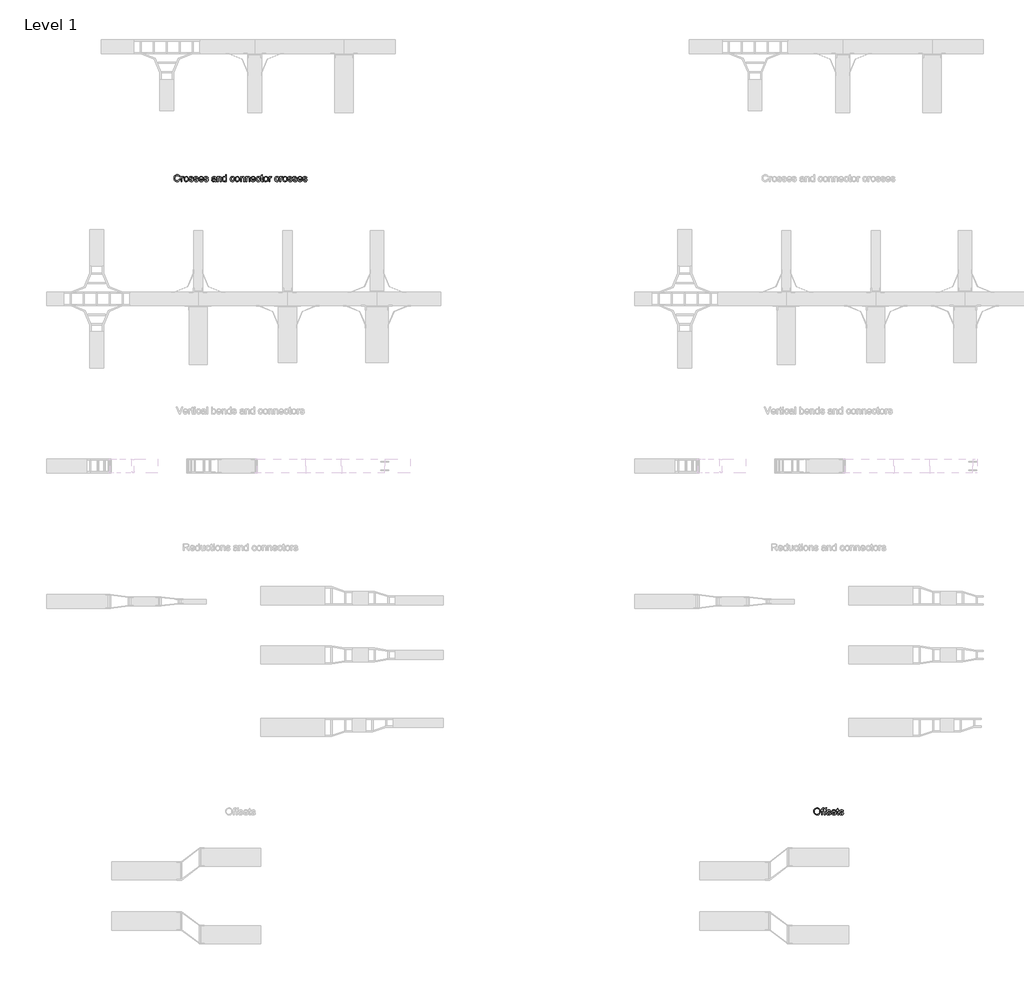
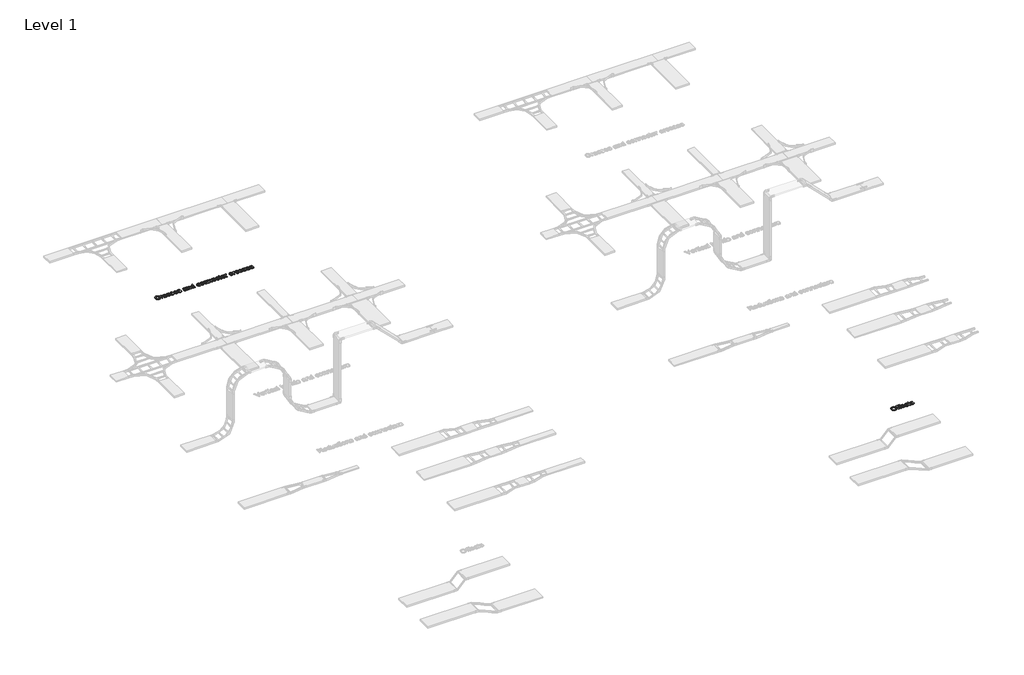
# One storey, part 66 of 106: 2 proxies.
"""IFC4 building model written with IfcOpenShell, lengths in millimetres."""

from ifc_helpers import new_model, si_unit, origin, origin_with_axes, place, context, project, spatial, polyline, outline, extrude, element, save

model = new_model("IFC4")

# Units and contexts
model_context = context("Model", 3, world=origin())
ifc_project = project(units=[si_unit("LENGTHUNIT", "METRE", prefix="MILLI")], contexts=[model_context])

# Site, building, storey
site = spatial("IfcSite", under=ifc_project)
building = spatial("IfcBuilding", under=site)
storey = spatial("IfcBuildingStorey", under=building, Name="Level 1", Elevation=0.0)

# Proxies
placement = place(None, origin())
element("IfcBuildingElementProxy", 1, Name="150mm Arial 2", ObjectType="150mm Arial 2", at=placement, inside=storey, context=model_context, shape_type="SweptSolid", body=[
    extrude(outline(polyline([(41573.187076, 62501.4112533), (41592.0226342, 62496.5552109), (41583.331422, 62474.6064514), (41569.6921971, 62458.5713949), (41551.7763439, 62448.7627412), (41530.2552472, 62445.49319), (41508.4076552, 62447.9671964), (41491.0574206, 62455.3892157), (41477.7584865, 62467.5017304), (41468.0647959, 62484.0472231), (41462.1464943, 62503.4989836), (41460.1737271, 62524.3303016), (41462.4040117, 62546.3020537), (41469.0948655, 62565.2755676), (41479.8968006, 62580.6484365), (41494.460329, 62591.8182536), (41511.7323887, 62598.619472), (41530.6599174, 62600.8865448), (41551.3118929, 62597.9526859), (41568.386216, 62589.1511091), (41581.3494578, 62575.0244405), (41589.6681894, 62556.115306), (41570.8326312, 62551.6271456), (41564.3027258, 62565.3629396), (41555.3815874, 62574.7853172), (41543.9588515, 62580.2345693), (41529.9241534, 62582.0509866), (41513.7465426, 62580.0368327), (41500.4568056, 62573.9943709), (41490.3722404, 62564.5581977), (41483.8101453, 62552.3629096), (41479.0092852, 62524.3670898), (41480.4302295, 62506.9662714), (41484.6930621, 62491.9198978), (41491.9587315, 62479.8027846), (41502.388186, 62471.1897474), (41514.8915754, 62466.043998), (41528.379049, 62464.3287482), (41544.1014058, 62466.6647988), (41557.2026033, 62473.6729508), (41567.0940305, 62485.2796278), (41573.187076, 62501.4112533)])), origin_with_axes(), (0.0, 0.0, 1.0), 15.0),
    extrude(outline(polyline([(41615.5670819, 62447.8476348), (41615.5670819, 62558.5065389), (41632.0481952, 62558.5065389), (41632.0481952, 62542.1357901), (41643.7468427, 62557.2189519), (41655.5190665, 62560.8609837), (41674.4282011, 62555.0484482), (41668.137419, 62538.1626646), (41654.8936671, 62542.0254255), (41644.2434834, 62538.3098174), (41637.4560606, 62528.0091215), (41634.40264, 62506.0097782), (41634.40264, 62447.8476348), (41615.5670819, 62447.8476348)])), origin_with_axes(), (0.0, 0.0, 1.0), 15.0),
    extrude(outline(polyline([(41681.4915354, 62503.1770869), (41685.5658285, 62529.8577286), (41697.7887078, 62548.6105133), (41712.8902637, 62557.7983661), (41730.9716637, 62560.8609837), (41750.7591166, 62557.13158), (41766.5642468, 62545.9433688), (41776.9247235, 62528.179267), (41780.3782157, 62504.7221912), (41778.8515054, 62485.693495), (41774.2713746, 62471.2081415), (41766.7711804, 62460.3602211), (41756.4842801, 62452.2438246), (41744.2659993, 62447.1808487), (41730.9716637, 62445.49319), (41710.9450876, 62449.2087982), (41695.1583515, 62460.3556226), (41684.9082394, 62478.492205), (41681.4915354, 62503.1770869)]), holes=[polyline([(41700.3270935, 62503.2138751), (41702.5067944, 62486.1671431), (41709.0458968, 62474.0224387), (41718.8867402, 62466.7521708), (41730.9716637, 62464.3287482), (41743.001405, 62466.7659664), (41752.8238543, 62474.077621), (41759.3629567, 62486.3832738), (41761.5426575, 62503.8024862), (41759.3491611, 62520.3525775), (41752.768672, 62532.331735), (41742.9324271, 62539.6020029), (41730.9716637, 62542.0254255), (41718.8867402, 62539.6112), (41709.0458968, 62532.3685232), (41702.5067944, 62520.25141), (41700.3270935, 62503.2138751)])]), origin_with_axes(), (0.0, 0.0, 1.0), 15.0),
    extrude(outline(polyline([(41794.5048843, 62480.8098615), (41813.3404425, 62483.1643063), (41816.3110896, 62475.1076906), (41822.0592457, 62469.1847905), (41842.0352381, 62464.3287482), (41861.2386782, 62468.7801203), (41867.4926722, 62479.227969), (41865.9199766, 62484.028829), (41861.20189, 62487.6892549), (41841.8145089, 62493.060332), (41813.4508071, 62502.275776), (41801.0715779, 62513.0363243), (41796.8593291, 62528.2298507), (41800.2438434, 62542.2645488), (41809.4776815, 62552.988309), (41821.4522405, 62558.5617212), (41837.6574423, 62560.8609837), (41860.5764906, 62557.1637696), (41875.1446177, 62547.1573794), (41881.6193408, 62530.2532017), (41862.7837826, 62527.8987569), (41855.7020542, 62538.2914233), (41839.1289703, 62542.0254255), (41821.1027526, 62538.4569702), (41815.6948872, 62530.1428371), (41817.9389674, 62524.6613954), (41824.9655135, 62520.5043288), (41841.1891095, 62516.4944151), (41868.8354414, 62507.628459), (41881.6745231, 62497.5852805), (41886.3282303, 62481.2145317), (41880.8651827, 62463.188314), (41865.1014392, 62450.1101091), (41841.7777207, 62445.49319), (41822.7858127, 62447.7188761), (41808.9258585, 62454.3959343), (41799.6736263, 62465.4507882), (41794.5048843, 62480.8098615)])), origin_with_axes(), (0.0, 0.0, 1.0), 15.0),
    extrude(outline(polyline([(41900.4548989, 62480.8098615), (41919.2904571, 62483.1643063), (41922.2611042, 62475.1076906), (41928.0092604, 62469.1847905), (41947.9852527, 62464.3287482), (41967.1886928, 62468.7801203), (41973.4426868, 62479.227969), (41971.8699912, 62484.028829), (41967.1519046, 62487.6892549), (41947.7645235, 62493.060332), (41919.4008217, 62502.275776), (41907.0215925, 62513.0363243), (41902.8093437, 62528.2298507), (41906.193858, 62542.2645488), (41915.4276961, 62552.988309), (41927.4022551, 62558.5617212), (41943.607457, 62560.8609837), (41966.5265053, 62557.1637696), (41981.0946323, 62547.1573794), (41987.5693554, 62530.2532017), (41968.7337972, 62527.8987569), (41961.6520688, 62538.2914233), (41945.0789849, 62542.0254255), (41927.0527672, 62538.4569702), (41921.6449018, 62530.1428371), (41923.888982, 62524.6613954), (41930.9155281, 62520.5043288), (41947.1391241, 62516.4944151), (41974.785456, 62507.628459), (41987.6245377, 62497.5852805), (41992.2782449, 62481.2145317), (41986.8151973, 62463.188314), (41971.0514538, 62450.1101091), (41947.7277353, 62445.49319), (41928.7358273, 62447.7188761), (41914.8758731, 62454.3959343), (41905.623641, 62465.4507882), (41900.4548989, 62480.8098615)])), origin_with_axes(), (0.0, 0.0, 1.0), 15.0),
    extrude(outline(polyline([(42090.944196, 62480.8098615), (42109.4118722, 62478.4554168), (42102.7578066, 62464.5402803), (42092.1398125, 62454.1384169), (42077.7970132, 62447.6544967), (42059.968532, 62445.49319), (42037.8680212, 62449.2225937), (42020.8626759, 62460.4108049), (42010.0193541, 62478.3312566), (42006.4049135, 62502.2573819), (42010.0561423, 62526.988249), (42021.0098287, 62545.4835163), (42037.7852477, 62557.0166168), (42058.9016742, 62560.8609837), (42079.3605117, 62557.0258139), (42095.7082679, 62545.5203045), (42106.4274295, 62527.0618254), (42110.0004834, 62502.3677465), (42109.8901188, 62497.2909749), (42025.2404717, 62497.2909749), (42028.5008259, 62483.1918975), (42036.0745964, 62472.8268223), (42047.0052902, 62466.4532667), (42060.336414, 62464.3287482), (42078.8040902, 62468.2650855), (42090.944196, 62480.8098615)]), holes=[polyline([(42025.2404717, 62516.1265331), (42091.1649252, 62516.1265331), (42088.6173424, 62526.0777411), (42083.6233443, 62533.1962577), (42072.6420668, 62539.8181336), (42058.8280978, 62542.0254255), (42046.1315705, 62540.2641905), (42035.633138, 62534.9804853), (42028.335279, 62526.7445272), (42025.2404717, 62516.1265331)])]), origin_with_axes(), (0.0, 0.0, 1.0), 15.0),
    extrude(outline(polyline([(42121.7727072, 62480.8098615), (42140.6082654, 62483.1643063), (42143.5789125, 62475.1076906), (42149.3270687, 62469.1847905), (42169.303061, 62464.3287482), (42188.5065011, 62468.7801203), (42194.7604951, 62479.227969), (42193.1877995, 62484.028829), (42188.4697129, 62487.6892549), (42169.0823318, 62493.060332), (42140.71863, 62502.275776), (42128.3394008, 62513.0363243), (42124.127152, 62528.2298507), (42127.5116663, 62542.2645488), (42136.7455044, 62552.988309), (42148.7200634, 62558.5617212), (42164.9252653, 62560.8609837), (42187.8443136, 62557.1637696), (42202.4124406, 62547.1573794), (42208.8871637, 62530.2532017), (42190.0516055, 62527.8987569), (42182.9698771, 62538.2914233), (42166.3967932, 62542.0254255), (42148.3705755, 62538.4569702), (42142.9627101, 62530.1428371), (42145.2067903, 62524.6613954), (42152.2333364, 62520.5043288), (42168.4569324, 62516.4944151), (42196.1032643, 62507.628459), (42208.942346, 62497.5852805), (42213.5960532, 62481.2145317), (42208.1330056, 62463.188314), (42192.3692621, 62450.1101091), (42169.0455436, 62445.49319), (42150.0536356, 62447.7188761), (42136.1936814, 62454.3959343), (42126.9414493, 62465.4507882), (42121.7727072, 62480.8098615)])), origin_with_axes(), (0.0, 0.0, 1.0), 15.0),
    extrude(outline(polyline([(42364.2805184, 62461.9743034), (42346.0151774, 62449.2087982), (42325.8368499, 62445.49319), (42310.0960991, 62447.7280731), (42298.4848236, 62454.4327225), (42291.3249203, 62464.6138567), (42288.9382858, 62477.2781944), (42292.5435294, 62492.1774152), (42302.0164908, 62502.9931459), (42315.2050603, 62509.1735634), (42331.5022327, 62512.0062547), (42364.1701538, 62518.4809779), (42364.2805184, 62522.6748326), (42362.9837344, 62531.0809362), (42359.0933823, 62536.580772), (42350.3929731, 62540.6642622), (42338.2712614, 62542.0254255), (42319.214974, 62538.4017879), (42310.1282887, 62525.5443122), (42291.2927306, 62527.8987569), (42299.4413168, 62546.2928567), (42315.8488538, 62557.0717991), (42340.6992825, 62560.8609837), (42363.5263603, 62557.5132575), (42376.4206243, 62549.107154), (42382.1963716, 62536.3232546), (42383.1160766, 62519.8421412), (42383.1160766, 62496.4080581), (42384.0725698, 62463.6849547), (42387.8249661, 62447.8476348), (42368.989408, 62447.8476348), (42364.2805184, 62461.9743034)]), holes=[polyline([(42364.2805184, 62499.6454197), (42333.8934656, 62493.8696724), (42317.6882638, 62490.8162518), (42310.3490179, 62485.8498449), (42307.773844, 62478.6025696), (42313.3840444, 62468.4122383), (42329.8467637, 62464.3287482), (42348.903051, 62468.8353026), (42361.1903097, 62479.7430038), (42364.1701538, 62494.3111308), (42364.2805184, 62499.6454197)])]), origin_with_axes(), (0.0, 0.0, 1.0), 15.0),
    extrude(outline(polyline([(42409.0149691, 62447.8476348), (42409.0149691, 62558.5065389), (42427.8505272, 62558.5065389), (42427.8505272, 62543.0554951), (42442.2531073, 62556.4096116), (42461.9164, 62560.8609837), (42479.7034944, 62557.2741342), (42491.8436003, 62547.8563552), (42497.4905889, 62534.0055981), (42498.4838703, 62515.7954393), (42498.4838703, 62447.8476348), (42479.6483121, 62447.8476348), (42479.6483121, 62513.2570535), (42477.4778084, 62529.9221079), (42469.8074688, 62538.7328817), (42456.8764166, 62542.0254255), (42445.8445553, 62540.1768185), (42436.4405718, 62534.6309974), (42429.9980384, 62523.9164343), (42427.8505272, 62506.5616012), (42427.8505272, 62447.8476348), (42409.0149691, 62447.8476348)])), origin_with_axes(), (0.0, 0.0, 1.0), 15.0),
    extrude(outline(polyline([(42592.661661, 62447.8476348), (42592.661661, 62465.6163351), (42580.1996585, 62450.5239763), (42562.973584, 62445.49319), (42550.79669, 62447.3142059), (42539.6498655, 62452.7772535), (42530.2136924, 62461.5006553), (42523.1687522, 62473.1027337), (42518.7817594, 62487.1144392), (42517.3194284, 62503.0667223), (42522.7088997, 62533.0491049), (42529.4411402, 62544.9408904), (42538.8589193, 62553.6872848), (42550.2494655, 62559.067559), (42562.9000076, 62560.8609837), (42580.2640378, 62555.7290299), (42592.661661, 62542.3933075), (42592.661661, 62598.5321), (42611.4972192, 62598.5321), (42611.4972192, 62447.8476348), (42592.661661, 62447.8476348)]), holes=[polyline([(42536.1549866, 62503.1402987), (42538.2795051, 62486.1027638), (42544.6530607, 62473.9856505), (42553.9144899, 62466.7429738), (42564.7026294, 62464.3287482), (42575.4861704, 62466.6326092), (42584.5130749, 62473.5441921), (42590.6245145, 62485.1922558), (42592.661661, 62501.7055589), (42590.5877263, 62519.7593678), (42584.3659221, 62532.2765527), (42575.1090914, 62539.5882073), (42563.9300772, 62542.0254255), (42553.0315731, 62539.6847764), (42544.1012377, 62532.6628288), (42538.1415494, 62520.6008979), (42536.1549866, 62503.1402987)])]), origin_with_axes(), (0.0, 0.0, 1.0), 15.0),
    extrude(outline(polyline([(42769.2450187, 62487.8731959), (42788.0805769, 62485.5187511), (42782.8290614, 62468.7663247), (42772.9606269, 62456.1065856), (42759.4041754, 62448.1465389), (42743.0886089, 62445.49319), (42723.0528357, 62449.1950026), (42707.3856612, 62460.3004403), (42697.2735049, 62478.3220596), (42693.9027861, 62502.7724167), (42695.3421244, 62519.5340401), (42699.6601393, 62534.0607803), (42706.9258087, 62545.7916175), (42717.2081105, 62554.1655314), (42729.5091647, 62559.1871206), (42742.8310915, 62560.8609837), (42758.7465863, 62558.5617212), (42771.4707048, 62551.6639338), (42780.5987768, 62540.5355035), (42785.7261321, 62525.5443122), (42766.890574, 62523.1898674), (42758.1533766, 62537.2981419), (42742.9782443, 62542.0254255), (42730.8059488, 62539.6985719), (42721.1444479, 62532.7180111), (42714.8398702, 62520.7066639), (42712.7383443, 62503.2874515), (42714.7938849, 62485.6337142), (42720.9605069, 62473.5809803), (42730.4472638, 62466.6418062), (42742.4632095, 62464.3287482), (42752.2166809, 62465.772685), (42760.2135157, 62470.1044955), (42766.0306498, 62477.4345442), (42769.2450187, 62487.8731959)])), origin_with_axes(), (0.0, 0.0, 1.0), 15.0),
    extrude(outline(polyline([(42799.8528007, 62503.1770869), (42803.9270938, 62529.8577286), (42816.1499731, 62548.6105133), (42831.251529, 62557.7983661), (42849.3329291, 62560.8609837), (42869.1203819, 62557.13158), (42884.9255121, 62545.9433688), (42895.2859888, 62528.179267), (42898.739481, 62504.7221912), (42897.2127708, 62485.693495), (42892.6326399, 62471.2081415), (42885.1324457, 62460.3602211), (42874.8455454, 62452.2438246), (42862.6272647, 62447.1808487), (42849.3329291, 62445.49319), (42829.306353, 62449.2087982), (42813.5196168, 62460.3556226), (42803.2695048, 62478.492205), (42799.8528007, 62503.1770869)]), holes=[polyline([(42818.6883589, 62503.2138751), (42820.8680597, 62486.1671431), (42827.4071622, 62474.0224387), (42837.2480055, 62466.7521708), (42849.3329291, 62464.3287482), (42861.3626703, 62466.7659664), (42871.1851196, 62474.077621), (42877.7242221, 62486.3832738), (42879.9039229, 62503.8024862), (42877.7104265, 62520.3525775), (42871.1299373, 62532.331735), (42861.2936924, 62539.6020029), (42849.3329291, 62542.0254255), (42837.2480055, 62539.6112), (42827.4071622, 62532.3685232), (42820.8680597, 62520.25141), (42818.6883589, 62503.2138751)])]), origin_with_axes(), (0.0, 0.0, 1.0), 15.0),
    extrude(outline(polyline([(42919.929484, 62447.8476348), (42919.929484, 62558.5065389), (42938.7650421, 62558.5065389), (42938.7650421, 62543.0554951), (42953.1676222, 62556.4096116), (42972.8309149, 62560.8609837), (42990.6180093, 62557.2741342), (43002.7581152, 62547.8563552), (43008.4051038, 62534.0055981), (43009.3983852, 62515.7954393), (43009.3983852, 62447.8476348), (42990.562827, 62447.8476348), (42990.562827, 62513.2570535), (42988.3923233, 62529.9221079), (42980.7219837, 62538.7328817), (42967.7909315, 62542.0254255), (42956.7590702, 62540.1768185), (42947.3550867, 62534.6309974), (42940.9125533, 62523.9164343), (42938.7650421, 62506.5616012), (42938.7650421, 62447.8476348), (42919.929484, 62447.8476348)])), origin_with_axes(), (0.0, 0.0, 1.0), 15.0),
    extrude(outline(polyline([(43035.2972776, 62447.8476348), (43035.2972776, 62558.5065389), (43054.1328358, 62558.5065389), (43054.1328358, 62543.0554951), (43068.5354159, 62556.4096116), (43088.1987085, 62560.8609837), (43105.985803, 62557.2741342), (43118.1259089, 62547.8563552), (43123.7728975, 62534.0055981), (43124.7661789, 62515.7954393), (43124.7661789, 62447.8476348), (43105.9306207, 62447.8476348), (43105.9306207, 62513.2570535), (43103.7601169, 62529.9221079), (43096.0897773, 62538.7328817), (43083.1587252, 62542.0254255), (43072.1268639, 62540.1768185), (43062.7228804, 62534.6309974), (43056.2803469, 62523.9164343), (43054.1328358, 62506.5616012), (43054.1328358, 62447.8476348), (43035.2972776, 62447.8476348)])), origin_with_axes(), (0.0, 0.0, 1.0), 15.0),
    extrude(outline(polyline([(43228.1410195, 62480.8098615), (43246.6086957, 62478.4554168), (43239.9546301, 62464.5402803), (43229.336636, 62454.1384169), (43214.9938367, 62447.6544967), (43197.1653555, 62445.49319), (43175.0648447, 62449.2225937), (43158.0594994, 62460.4108049), (43147.2161776, 62478.3312566), (43143.601737, 62502.2573819), (43147.2529658, 62526.988249), (43158.2066522, 62545.4835163), (43174.9820712, 62557.0166168), (43196.0984977, 62560.8609837), (43216.5573352, 62557.0258139), (43232.9050914, 62545.5203045), (43243.624253, 62527.0618254), (43247.1973069, 62502.3677465), (43247.0869423, 62497.2909749), (43162.4372952, 62497.2909749), (43165.6976494, 62483.1918975), (43173.2714199, 62472.8268223), (43184.2021137, 62466.4532667), (43197.5332375, 62464.3287482), (43216.0009137, 62468.2650855), (43228.1410195, 62480.8098615)]), holes=[polyline([(43162.4372952, 62516.1265331), (43228.3617487, 62516.1265331), (43225.8141659, 62526.0777411), (43220.8201678, 62533.1962577), (43209.8388903, 62539.8181336), (43196.0249213, 62542.0254255), (43183.328394, 62540.2641905), (43172.8299615, 62534.9804853), (43165.5321025, 62526.7445272), (43162.4372952, 62516.1265331)])]), origin_with_axes(), (0.0, 0.0, 1.0), 15.0),
    extrude(outline(polyline([(43336.6662081, 62487.8731959), (43355.5017662, 62485.5187511), (43350.2502508, 62468.7663247), (43340.3818162, 62456.1065856), (43326.8253647, 62448.1465389), (43310.5097982, 62445.49319), (43290.4740251, 62449.1950026), (43274.8068506, 62460.3004403), (43264.6946943, 62478.3220596), (43261.3239755, 62502.7724167), (43262.7633138, 62519.5340401), (43267.0813287, 62534.0607803), (43274.3469981, 62545.7916175), (43284.6292999, 62554.1655314), (43296.9303541, 62559.1871206), (43310.2522808, 62560.8609837), (43326.1677757, 62558.5617212), (43338.8918942, 62551.6639338), (43348.0199662, 62540.5355035), (43353.1473215, 62525.5443122), (43334.3117633, 62523.1898674), (43325.5745659, 62537.2981419), (43310.3994336, 62542.0254255), (43298.2271381, 62539.6985719), (43288.5656372, 62532.7180111), (43282.2610595, 62520.7066639), (43280.1595336, 62503.2874515), (43282.2150743, 62485.6337142), (43288.3816962, 62473.5809803), (43297.8684532, 62466.6418062), (43309.8843988, 62464.3287482), (43319.6378702, 62465.772685), (43327.6347051, 62470.1044955), (43333.4518392, 62477.4345442), (43336.6662081, 62487.8731959)])), origin_with_axes(), (0.0, 0.0, 1.0), 15.0),
    extrude(outline(polyline([(43412.0084407, 62463.556196), (43414.3628855, 62447.2958118), (43400.2730051, 62445.49319), (43384.4908675, 62448.620187), (43376.6181928, 62456.8239555), (43374.3373244, 62478.1978994), (43374.3373244, 62539.6709808), (43360.2106558, 62539.6709808), (43360.2106558, 62558.5065389), (43374.3373244, 62558.5065389), (43374.3373244, 62585.3987128), (43393.1728826, 62596.4719608), (43393.1728826, 62558.5065389), (43412.0084407, 62558.5065389), (43412.0084407, 62539.6709808), (43393.1728826, 62539.6709808), (43393.1728826, 62478.7497224), (43394.1661639, 62469.0376377), (43397.3851314, 62465.597941), (43403.8046722, 62464.3287482), (43412.0084407, 62463.556196)])), origin_with_axes(), (0.0, 0.0, 1.0), 15.0),
    extrude(outline(polyline([(43426.1351093, 62503.1770869), (43430.2094024, 62529.8577286), (43442.4322817, 62548.6105133), (43457.5338376, 62557.7983661), (43475.6152377, 62560.8609837), (43495.4026905, 62557.13158), (43511.2078207, 62545.9433688), (43521.5682974, 62528.179267), (43525.0217896, 62504.7221912), (43523.4950793, 62485.693495), (43518.9149485, 62471.2081415), (43511.4147543, 62460.3602211), (43501.127854, 62452.2438246), (43488.9095733, 62447.1808487), (43475.6152377, 62445.49319), (43455.5886616, 62449.2087982), (43439.8019254, 62460.3556226), (43429.5518133, 62478.492205), (43426.1351093, 62503.1770869)]), holes=[polyline([(43444.9706675, 62503.2138751), (43447.1503683, 62486.1671431), (43453.6894708, 62474.0224387), (43463.5303141, 62466.7521708), (43475.6152377, 62464.3287482), (43487.6449789, 62466.7659664), (43497.4674282, 62474.077621), (43504.0065306, 62486.3832738), (43506.1862315, 62503.8024862), (43503.9927351, 62520.3525775), (43497.4122459, 62532.331735), (43487.576001, 62539.6020029), (43475.6152377, 62542.0254255), (43463.5303141, 62539.6112), (43453.6894708, 62532.3685232), (43447.1503683, 62520.25141), (43444.9706675, 62503.2138751)])]), origin_with_axes(), (0.0, 0.0, 1.0), 15.0),
    extrude(outline(polyline([(43546.2117925, 62447.8476348), (43546.2117925, 62558.5065389), (43562.6929059, 62558.5065389), (43562.6929059, 62542.1357901), (43574.3915534, 62557.2189519), (43586.1637772, 62560.8609837), (43605.0729118, 62555.0484482), (43598.7821297, 62538.1626646), (43585.5383778, 62542.0254255), (43574.8881941, 62538.3098174), (43568.1007713, 62528.0091215), (43565.0473507, 62506.0097782), (43565.0473507, 62447.8476348), (43546.2117925, 62447.8476348)])), origin_with_axes(), (0.0, 0.0, 1.0), 15.0),
    extrude(outline(polyline([(43746.3395979, 62487.8731959), (43765.1751561, 62485.5187511), (43759.9236406, 62468.7663247), (43750.0552061, 62456.1065856), (43736.4987545, 62448.1465389), (43720.1831881, 62445.49319), (43700.1474149, 62449.1950026), (43684.4802404, 62460.3004403), (43674.3680841, 62478.3220596), (43670.9973653, 62502.7724167), (43672.4367036, 62519.5340401), (43676.7547185, 62534.0607803), (43684.0203879, 62545.7916175), (43694.3026897, 62554.1655314), (43706.6037439, 62559.1871206), (43719.9256707, 62560.8609837), (43735.8411655, 62558.5617212), (43748.565284, 62551.6639338), (43757.693356, 62540.5355035), (43762.8207113, 62525.5443122), (43743.9851532, 62523.1898674), (43735.2479558, 62537.2981419), (43720.0728235, 62542.0254255), (43707.9005279, 62539.6985719), (43698.2390271, 62532.7180111), (43691.9344494, 62520.7066639), (43689.8329235, 62503.2874515), (43691.8884641, 62485.6337142), (43698.0550861, 62473.5809803), (43707.541843, 62466.6418062), (43719.5577887, 62464.3287482), (43729.3112601, 62465.772685), (43737.3080949, 62470.1044955), (43743.125229, 62477.4345442), (43746.3395979, 62487.8731959)])), origin_with_axes(), (0.0, 0.0, 1.0), 15.0),
    extrude(outline(polyline([(43781.6562695, 62447.8476348), (43781.6562695, 62558.5065389), (43798.1373828, 62558.5065389), (43798.1373828, 62542.1357901), (43809.8360303, 62557.2189519), (43821.6082541, 62560.8609837), (43840.5173887, 62555.0484482), (43834.2266066, 62538.1626646), (43820.9828547, 62542.0254255), (43810.332671, 62538.3098174), (43803.5452482, 62528.0091215), (43800.4918276, 62506.0097782), (43800.4918276, 62447.8476348), (43781.6562695, 62447.8476348)])), origin_with_axes(), (0.0, 0.0, 1.0), 15.0),
    extrude(outline(polyline([(43847.580723, 62503.1770869), (43851.6550161, 62529.8577286), (43863.8778954, 62548.6105133), (43878.9794513, 62557.7983661), (43897.0608513, 62560.8609837), (43916.8483042, 62557.13158), (43932.6534344, 62545.9433688), (43943.0139111, 62528.179267), (43946.4674033, 62504.7221912), (43944.940693, 62485.693495), (43940.3605622, 62471.2081415), (43932.860368, 62460.3602211), (43922.5734677, 62452.2438246), (43910.3551869, 62447.1808487), (43897.0608513, 62445.49319), (43877.0342752, 62449.2087982), (43861.2475391, 62460.3556226), (43850.997427, 62478.492205), (43847.580723, 62503.1770869)]), holes=[polyline([(43866.4162811, 62503.2138751), (43868.595982, 62486.1671431), (43875.1350844, 62474.0224387), (43884.9759278, 62466.7521708), (43897.0608513, 62464.3287482), (43909.0905926, 62466.7659664), (43918.9130419, 62474.077621), (43925.4521443, 62486.3832738), (43927.6318451, 62503.8024862), (43925.4383487, 62520.3525775), (43918.8578596, 62532.331735), (43909.0216147, 62539.6020029), (43897.0608513, 62542.0254255), (43884.9759278, 62539.6112), (43875.1350844, 62532.3685232), (43868.595982, 62520.25141), (43866.4162811, 62503.2138751)])]), origin_with_axes(), (0.0, 0.0, 1.0), 15.0),
    extrude(outline(polyline([(43960.5940719, 62480.8098615), (43979.4296301, 62483.1643063), (43982.4002772, 62475.1076906), (43988.1484333, 62469.1847905), (44008.1244257, 62464.3287482), (44027.3278658, 62468.7801203), (44033.5818598, 62479.227969), (44032.0091642, 62484.028829), (44027.2910776, 62487.6892549), (44007.9036965, 62493.060332), (43979.5399947, 62502.275776), (43967.1607655, 62513.0363243), (43962.9485167, 62528.2298507), (43966.333031, 62542.2645488), (43975.5668691, 62552.988309), (43987.5414281, 62558.5617212), (44003.7466299, 62560.8609837), (44026.6656782, 62557.1637696), (44041.2338053, 62547.1573794), (44047.7085284, 62530.2532017), (44028.8729702, 62527.8987569), (44021.7912418, 62538.2914233), (44005.2181579, 62542.0254255), (43987.1919402, 62538.4569702), (43981.7840748, 62530.1428371), (43984.028155, 62524.6613954), (43991.0547011, 62520.5043288), (44007.2782971, 62516.4944151), (44034.924629, 62507.628459), (44047.7637107, 62497.5852805), (44052.4174179, 62481.2145317), (44046.9543703, 62463.188314), (44031.1906268, 62450.1101091), (44007.8669083, 62445.49319), (43988.8750003, 62447.7188761), (43975.0150461, 62454.3959343), (43965.7628139, 62465.4507882), (43960.5940719, 62480.8098615)])), origin_with_axes(), (0.0, 0.0, 1.0), 15.0),
    extrude(outline(polyline([(44066.5440865, 62480.8098615), (44085.3796447, 62483.1643063), (44088.3502918, 62475.1076906), (44094.098448, 62469.1847905), (44114.0744403, 62464.3287482), (44133.2778804, 62468.7801203), (44139.5318744, 62479.227969), (44137.9591788, 62484.028829), (44133.2410922, 62487.6892549), (44113.8537111, 62493.060332), (44085.4900093, 62502.275776), (44073.1107801, 62513.0363243), (44068.8985313, 62528.2298507), (44072.2830456, 62542.2645488), (44081.5168837, 62552.988309), (44093.4914427, 62558.5617212), (44109.6966446, 62560.8609837), (44132.6156929, 62557.1637696), (44147.1838199, 62547.1573794), (44153.658543, 62530.2532017), (44134.8229848, 62527.8987569), (44127.7412564, 62538.2914233), (44111.1681725, 62542.0254255), (44093.1419548, 62538.4569702), (44087.7340894, 62530.1428371), (44089.9781696, 62524.6613954), (44097.0047157, 62520.5043288), (44113.2283117, 62516.4944151), (44140.8746436, 62507.628459), (44153.7137253, 62497.5852805), (44158.3674325, 62481.2145317), (44152.9043849, 62463.188314), (44137.1406414, 62450.1101091), (44113.8169229, 62445.49319), (44094.8250149, 62447.7188761), (44080.9650607, 62454.3959343), (44071.7128286, 62465.4507882), (44066.5440865, 62480.8098615)])), origin_with_axes(), (0.0, 0.0, 1.0), 15.0),
    extrude(outline(polyline([(44257.0333836, 62480.8098615), (44275.5010598, 62478.4554168), (44268.8469942, 62464.5402803), (44258.2290001, 62454.1384169), (44243.8862008, 62447.6544967), (44226.0577196, 62445.49319), (44203.9572088, 62449.2225937), (44186.9518635, 62460.4108049), (44176.1085417, 62478.3312566), (44172.4941011, 62502.2573819), (44176.1453299, 62526.988249), (44187.0990163, 62545.4835163), (44203.8744353, 62557.0166168), (44224.9908618, 62560.8609837), (44245.4496993, 62557.0258139), (44261.7974555, 62545.5203045), (44272.5166171, 62527.0618254), (44276.089671, 62502.3677465), (44275.9793064, 62497.2909749), (44191.3296593, 62497.2909749), (44194.5900135, 62483.1918975), (44202.163784, 62472.8268223), (44213.0944778, 62466.4532667), (44226.4256016, 62464.3287482), (44244.8932778, 62468.2650855), (44257.0333836, 62480.8098615)]), holes=[polyline([(44191.3296593, 62516.1265331), (44257.2541128, 62516.1265331), (44254.70653, 62526.0777411), (44249.7125319, 62533.1962577), (44238.7312544, 62539.8181336), (44224.9172854, 62542.0254255), (44212.2207581, 62540.2641905), (44201.7223256, 62534.9804853), (44194.4244666, 62526.7445272), (44191.3296593, 62516.1265331)])]), origin_with_axes(), (0.0, 0.0, 1.0), 15.0),
    extrude(outline(polyline([(44287.8618948, 62480.8098615), (44306.697453, 62483.1643063), (44309.6681001, 62475.1076906), (44315.4162563, 62469.1847905), (44335.3922486, 62464.3287482), (44354.5956887, 62468.7801203), (44360.8496827, 62479.227969), (44359.2769871, 62484.028829), (44354.5589005, 62487.6892549), (44335.1715194, 62493.060332), (44306.8078176, 62502.275776), (44294.4285884, 62513.0363243), (44290.2163396, 62528.2298507), (44293.6008539, 62542.2645488), (44302.834692, 62552.988309), (44314.809251, 62558.5617212), (44331.0144529, 62560.8609837), (44353.9335012, 62557.1637696), (44368.5016282, 62547.1573794), (44374.9763513, 62530.2532017), (44356.1407931, 62527.8987569), (44349.0590647, 62538.2914233), (44332.4859808, 62542.0254255), (44314.4597631, 62538.4569702), (44309.0518977, 62530.1428371), (44311.2959779, 62524.6613954), (44318.322524, 62520.5043288), (44334.54612, 62516.4944151), (44362.1924519, 62507.628459), (44375.0315336, 62497.5852805), (44379.6852408, 62481.2145317), (44374.2221932, 62463.188314), (44358.4584497, 62450.1101091), (44335.1347312, 62445.49319), (44316.1428232, 62447.7188761), (44302.282869, 62454.3959343), (44293.0306369, 62465.4507882), (44287.8618948, 62480.8098615)])), origin_with_axes(), (0.0, 0.0, 1.0), 15.0),
])
element("IfcBuildingElementProxy", 2, Name="150mm Arial 2", ObjectType="150mm Arial 2", at=placement, inside=storey, context=model_context, shape_type="SweptSolid", body=[
    extrude(outline(polyline([(55492.661661, 48621.2033046), (55497.6832503, 48654.5242163), (55503.9602368, 48668.1427479), (55512.748018, 48679.7333301), (55535.7498397, 48695.5982411), (55564.5825911, 48700.8865448), (55584.3470513, 48698.4033413), (55602.0697664, 48690.9537309), (55616.7850462, 48679.0619454), (55627.5272005, 48663.2522167), (55634.0938941, 48644.2878998), (55636.282792, 48622.93235), (55633.978931, 48601.2916916), (55627.067348, 48582.0606603), (55615.9297206, 48566.2233404), (55600.9477263, 48554.7638163), (55583.3767625, 48547.8108466), (55564.4722265, 48545.49319), (55544.4042637, 48548.0545684), (55526.580381, 48555.7387036), (55511.9018894, 48567.8512183), (55501.2700997, 48583.6977352), (55494.8137707, 48601.9308866), (55492.661661, 48621.2033046)]), holes=[polyline([(55511.4972192, 48621.0193636), (55515.2634111, 48597.4473248), (55526.5619869, 48579.4854864), (55543.5443395, 48568.1179327), (55564.3618619, 48564.3287482), (55585.482887, 48568.1547209), (55602.4928307, 48579.6326392), (55613.708633, 48598.1463006), (55617.4472338, 48623.0795028), (55615.8469471, 48639.7537542), (55611.0460871, 48654.1655314), (55603.1688139, 48665.9515508), (55592.3392876, 48674.748529), (55579.2748783, 48680.2253722), (55564.6929557, 48682.0509866), (55544.4318548, 48678.533115), (55527.2057804, 48667.9795003), (55515.4243595, 48649.203723), (55511.4972192, 48621.0193636)])]), origin_with_axes(), (0.0, 0.0, 1.0), 15.0),
    extrude(outline(polyline([(55725.7516932, 48547.8476348), (55725.7516932, 48639.6709808), (55709.2705798, 48639.6709808), (55709.2705798, 48658.5065389), (55725.7516932, 48658.5065389), (55725.7516932, 48669.6533634), (55727.738256, 48685.3619246), (55737.3767642, 48696.5823254), (55756.3594752, 48700.8865448), (55773.5395644, 48698.8264056), (55770.7804494, 48681.1680698), (55759.9279305, 48682.0509866), (55748.0637362, 48678.9239897), (55744.5872513, 48667.2621304), (55744.5872513, 48658.5065389), (55765.7772543, 48658.5065389), (55765.7772543, 48639.6709808), (55744.5872513, 48639.6709808), (55744.5872513, 48547.8476348), (55725.7516932, 48547.8476348)])), origin_with_axes(), (0.0, 0.0, 1.0), 15.0),
    extrude(outline(polyline([(55664.5361292, 48547.8476348), (55664.5361292, 48639.6709808), (55648.0550158, 48639.6709808), (55648.0550158, 48658.5065389), (55664.5361292, 48658.5065389), (55664.5361292, 48669.6533634), (55666.522692, 48685.3619246), (55676.1612002, 48696.5823254), (55695.1439112, 48700.8865448), (55712.3240004, 48698.8264056), (55709.5648854, 48681.1680698), (55698.7123665, 48682.0509866), (55686.8481722, 48678.9239897), (55683.3716873, 48667.2621304), (55683.3716873, 48658.5065389), (55704.5616903, 48658.5065389), (55704.5616903, 48639.6709808), (55683.3716873, 48639.6709808), (55683.3716873, 48547.8476348), (55664.5361292, 48547.8476348)])), origin_with_axes(), (0.0, 0.0, 1.0), 15.0),
    extrude(outline(polyline([(55775.1950333, 48580.8098615), (55794.0305915, 48583.1643063), (55797.0012386, 48575.1076906), (55802.7493948, 48569.1847905), (55822.7253871, 48564.3287482), (55841.9288273, 48568.7801203), (55848.1828212, 48579.227969), (55846.6101257, 48584.028829), (55841.8920391, 48587.6892549), (55822.5046579, 48593.060332), (55794.1409561, 48602.275776), (55781.761727, 48613.0363243), (55777.5494781, 48628.2298507), (55780.9339925, 48642.2645488), (55790.1678305, 48652.988309), (55802.1423895, 48658.5617212), (55818.3475914, 48660.8609837), (55841.2666397, 48657.1637696), (55855.8347667, 48647.1573794), (55862.3094898, 48630.2532017), (55843.4739316, 48627.8987569), (55836.3922032, 48638.2914233), (55819.8191194, 48642.0254255), (55801.7929016, 48638.4569702), (55796.3850363, 48630.1428371), (55798.6291164, 48624.6613954), (55805.6556625, 48620.5043288), (55821.8792585, 48616.4944151), (55849.5255905, 48607.628459), (55862.3646721, 48597.5852805), (55867.0183793, 48581.2145317), (55861.5553317, 48563.188314), (55845.7915882, 48550.1101091), (55822.4678697, 48545.49319), (55803.4759617, 48547.7188761), (55789.6160076, 48554.3959343), (55780.3637754, 48565.4507882), (55775.1950333, 48580.8098615)])), origin_with_axes(), (0.0, 0.0, 1.0), 15.0),
    extrude(outline(polyline([(55965.6843304, 48580.8098615), (55984.1520066, 48578.4554168), (55977.497941, 48564.5402803), (55966.8799469, 48554.1384169), (55952.5371476, 48547.6544967), (55934.7086664, 48545.49319), (55912.6081556, 48549.2225937), (55895.6028104, 48560.4108049), (55884.7594886, 48578.3312566), (55881.145048, 48602.2573819), (55884.7962768, 48626.988249), (55895.7499632, 48645.4835163), (55912.5253821, 48657.0166168), (55933.6418087, 48660.8609837), (55954.1006461, 48657.0258139), (55970.4484023, 48645.5203045), (55981.1675639, 48627.0618254), (55984.7406178, 48602.3677465), (55984.6302532, 48597.2909749), (55899.9806061, 48597.2909749), (55903.2409603, 48583.1918975), (55910.8147309, 48572.8268223), (55921.7454246, 48566.4532667), (55935.0765484, 48564.3287482), (55953.5442246, 48568.2650855), (55965.6843304, 48580.8098615)]), holes=[polyline([(55899.9806061, 48616.1265331), (55965.9050596, 48616.1265331), (55963.3574768, 48626.0777411), (55958.3634787, 48633.1962577), (55947.3822012, 48639.8181336), (55933.5682323, 48642.0254255), (55920.8717049, 48640.2641905), (55910.3732725, 48634.9804853), (55903.0754134, 48626.7445272), (55899.9806061, 48616.1265331)])]), origin_with_axes(), (0.0, 0.0, 1.0), 15.0),
    extrude(outline(polyline([(56043.601737, 48563.556196), (56045.9561818, 48547.2958118), (56031.8663014, 48545.49319), (56016.0841638, 48548.620187), (56008.2114891, 48556.8239555), (56005.9306207, 48578.1978994), (56005.9306207, 48639.6709808), (55991.8039521, 48639.6709808), (55991.8039521, 48658.5065389), (56005.9306207, 48658.5065389), (56005.9306207, 48685.3987128), (56024.7661789, 48696.4719608), (56024.7661789, 48658.5065389), (56043.601737, 48658.5065389), (56043.601737, 48639.6709808), (56024.7661789, 48639.6709808), (56024.7661789, 48578.7497224), (56025.7594603, 48569.0376377), (56028.9784277, 48565.597941), (56035.3979685, 48564.3287482), (56043.601737, 48563.556196)])), origin_with_axes(), (0.0, 0.0, 1.0), 15.0),
    extrude(outline(polyline([(56055.3739609, 48580.8098615), (56074.209519, 48583.1643063), (56077.1801661, 48575.1076906), (56082.9283223, 48569.1847905), (56102.9043146, 48564.3287482), (56122.1077548, 48568.7801203), (56128.3617487, 48579.227969), (56126.7890532, 48584.028829), (56122.0709666, 48587.6892549), (56102.6835854, 48593.060332), (56074.3198836, 48602.275776), (56061.9406545, 48613.0363243), (56057.7284056, 48628.2298507), (56061.11292, 48642.2645488), (56070.3467581, 48652.988309), (56082.321317, 48658.5617212), (56098.5265189, 48660.8609837), (56121.4455672, 48657.1637696), (56136.0136942, 48647.1573794), (56142.4884173, 48630.2532017), (56123.6528592, 48627.8987569), (56116.5711308, 48638.2914233), (56099.9980469, 48642.0254255), (56081.9718291, 48638.4569702), (56076.5639638, 48630.1428371), (56078.808044, 48624.6613954), (56085.8345901, 48620.5043288), (56102.0581861, 48616.4944151), (56129.704518, 48607.628459), (56142.5435996, 48597.5852805), (56147.1973069, 48581.2145317), (56141.7342592, 48563.188314), (56125.9705157, 48550.1101091), (56102.6467972, 48545.49319), (56083.6548892, 48547.7188761), (56069.7949351, 48554.3959343), (56060.5427029, 48565.4507882), (56055.3739609, 48580.8098615)])), origin_with_axes(), (0.0, 0.0, 1.0), 15.0),
])

save(model, "model.ifc")
